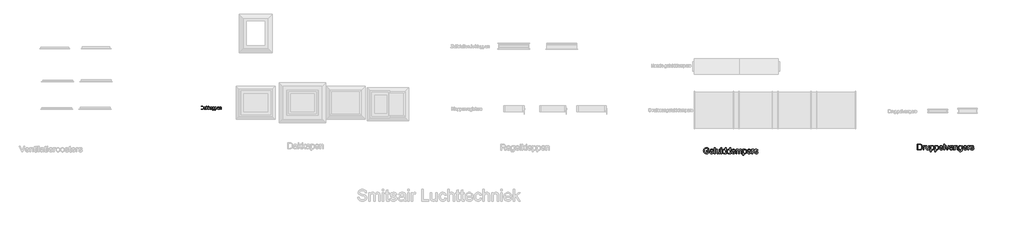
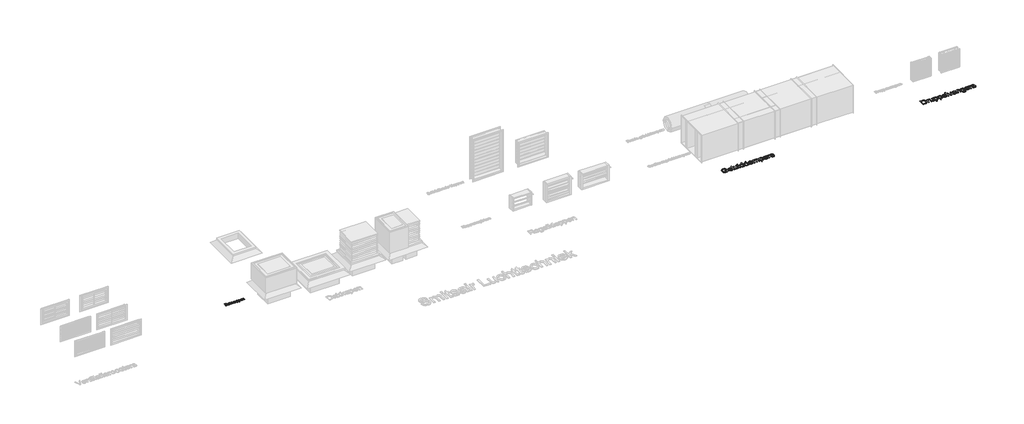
# One storey, part 6 of 10: 3 proxies.
"""IFC4 building model written with IfcOpenShell, lengths in millimetres."""

import ifcopenshell
import ifcopenshell.guid

model = None  # the IFC model being written
_history = None  # IfcOwnerHistory: only IFC2X3 demands one
_inside = {}  # id of a spatial element -> (the spatial element, [elements in it])
_under = {}  # id of a project, library or spatial element -> (it, [spatial elements below it])
_declared = {}  # id of a project -> (the project, [libraries it declares])
_typed = {}  # id of a type object -> (the type object, [elements of that type])
_made_of = {}  # id of a material, layer set ... -> (it, [elements and type objects made of it])


def new_model(schema):
    """Start an empty IFC model of exactly this schema.

    Asked for "IFC4X3", IfcOpenShell would pick the latest addendum, in which some entities
    have other attributes; the version numbers below select the first issue.
    IFC2X3 requires an IfcOwnerHistory on every rooted entity: one is made here for all.
    """
    global model, _history
    if schema == "IFC4X3":
        model = ifcopenshell.file(schema_version=(4, 3, 0, 0))
    else:
        model = ifcopenshell.file(schema=schema)
    _inside.clear()
    _under.clear()
    _declared.clear()
    _typed.clear()
    _made_of.clear()
    _history = None
    if model.schema == "IFC2X3":
        org = make("IfcOrganization", Name="unknown")
        user = make(
            "IfcPersonAndOrganization",
            ThePerson=make("IfcPerson", FamilyName="unknown"),
            TheOrganization=org,
        )
        app = make(
            "IfcApplication",
            ApplicationDeveloper=org,
            Version="unknown",
            ApplicationFullName="unknown",
            ApplicationIdentifier="unknown",
        )
        _history = make(
            "IfcOwnerHistory",
            OwningUser=user,
            OwningApplication=app,
            ChangeAction="ADDED",
            CreationDate=0,
        )
    return model


def make(cls, **values):
    """One entity of the class cls with the attributes given. An attribute that is None is left unset."""
    return model.create_entity(
        cls, **{name: value for name, value in values.items() if value is not None}
    )


def rooted(cls, **values):
    """An entity with a GlobalId (a new one), such as an element, a storey or a relation."""
    return make(cls, GlobalId=ifcopenshell.guid.new(), OwnerHistory=_history, **values)


def si_unit(unit_type, name, prefix=None):
    """IfcSIUnit, for example si_unit("LENGTHUNIT", "METRE", prefix="MILLI")."""
    return make("IfcSIUnit", UnitType=unit_type, Prefix=prefix, Name=name)


def assignment(units):
    """IfcUnitAssignment: the units of a project."""
    return None if units is None else make("IfcUnitAssignment", Units=units)


def point(xyz):
    """IfcCartesianPoint."""
    return None if xyz is None else make("IfcCartesianPoint", Coordinates=xyz)


def direction(xyz):
    """IfcDirection."""
    return None if xyz is None else make("IfcDirection", DirectionRatios=xyz)


def frame(location, z_axis=None, x_axis=None):
    """IfcAxis2Placement3D, a coordinate frame: its origin and axes. An axis left out is left unset."""
    return make(
        "IfcAxis2Placement3D",
        Location=point(location),
        Axis=direction(z_axis),
        RefDirection=direction(x_axis),
    )


def origin():
    """The frame at (0, 0, 0) with its axes left unset."""
    return frame((0.0, 0.0, 0.0))


def origin_with_axes():
    """The frame at (0, 0, 0) with the z axis (0, 0, 1) and the x axis (1, 0, 0) written out."""
    return frame((0.0, 0.0, 0.0), z_axis=(0.0, 0.0, 1.0), x_axis=(1.0, 0.0, 0.0))


def place(relative_to, where):
    """IfcLocalPlacement: puts the frame where relative to a parent placement (None: the world)."""
    return make(
        "IfcLocalPlacement", PlacementRelTo=relative_to, RelativePlacement=where
    )


def context(
    kind, dimensions, precision=None, world=None, true_north=None, identifier=None
):
    """IfcGeometricRepresentationContext, for example the 3D "Model" context."""
    return make(
        "IfcGeometricRepresentationContext",
        ContextIdentifier=identifier,
        ContextType=kind,
        CoordinateSpaceDimension=dimensions,
        Precision=precision,
        WorldCoordinateSystem=world,
        TrueNorth=true_north,
    )


def project(units=None, contexts=None):
    """IfcProject with its units and contexts."""
    return rooted(
        "IfcProject",
        Name="project",
        RepresentationContexts=contexts,
        UnitsInContext=assignment(units),
    )


def spatial(cls, under=None, at=None, **own):
    """A site, building, storey or space (cls), placed at a placement, below another one or the project."""
    s = rooted(cls, ObjectPlacement=at, **own)
    if under is not None:
        _under.setdefault(under.id(), (under, []))[1].append(s)
    return s


def polyline(points):
    """IfcPolyline through the points."""
    return make("IfcPolyline", Points=[point(p) for p in points])


def outline(outer, holes=None, kind="AREA"):
    """IfcArbitraryClosedProfileDef: a profile drawn as a closed curve; with holes, ...WithVoids."""
    if holes is None:
        return make("IfcArbitraryClosedProfileDef", ProfileType=kind, OuterCurve=outer)
    return make(
        "IfcArbitraryProfileDefWithVoids",
        ProfileType=kind,
        OuterCurve=outer,
        InnerCurves=holes,
    )


def extrude(swept, where, along, depth):
    """IfcExtrudedAreaSolid: the profile swept, set in the frame where, extruded along a direction by depth."""
    return make(
        "IfcExtrudedAreaSolid",
        SweptArea=swept,
        Position=where,
        ExtrudedDirection=direction(along),
        Depth=depth,
    )


def shape(context_of_items, identifier, shape_type, items):
    """IfcShapeRepresentation: the items that make up one representation, for example the "Body"."""
    return make(
        "IfcShapeRepresentation",
        ContextOfItems=context_of_items,
        RepresentationIdentifier=identifier,
        RepresentationType=shape_type,
        Items=items,
    )


def made_of(thing, what):
    """Note that an element or type object is made of a material, layer set ...; save() writes the relation."""
    if what is not None:
        _made_of.setdefault(what.id(), (what, []))[1].append(thing)
    return thing


def element(
    cls,
    number,
    at=None,
    inside=None,
    cuts=None,
    type_object=None,
    material=None,
    context=None,
    identifier="Body",
    shape_type=None,
    held_by="IfcProductDefinitionShape",
    body=None,
    shapes=None,
    **own,
):
    """One element of the class cls, such as IfcWall. Its Tag is "e" and its number.

    at: its placement. inside: the storey or other place that contains it. cuts: it is an
    opening in that element (IfcRelVoidsElement). A single representation is given by context,
    identifier, shape_type and body (its items); several are given by shapes. held_by: the class
    of the entity that holds the representations. save() writes the other relations.
    """
    e = rooted(cls, Tag="e%d" % number, ObjectPlacement=at, **own)
    if body is not None:
        shapes = [shape(context, identifier, shape_type, body)]
    if shapes is not None:
        e.Representation = make(held_by, Representations=shapes)
    if inside is not None:
        _inside.setdefault(inside.id(), (inside, []))[1].append(e)
    if cuts is not None:
        rooted(
            "IfcRelVoidsElement", RelatingBuildingElement=cuts, RelatedOpeningElement=e
        )
    if type_object is not None:
        _typed.setdefault(type_object.id(), (type_object, []))[1].append(e)
    return made_of(e, material)


def aggregate(whole, parts):
    """IfcRelAggregates: a whole, such as a stair, and the parts it consists of."""
    return rooted("IfcRelAggregates", RelatingObject=whole, RelatedObjects=parts)


def save(model, path):
    """Write the relations noted so far, then the file.

    IfcRelAggregates (storeys below a building ...), IfcRelContainedInSpatialStructure (elements
    in a storey), IfcRelDefinesByType, IfcRelAssociatesMaterial and IfcRelDeclares: one each for
    every whole, place, type object, material and project.
    """
    for whole, parts in _under.values():
        aggregate(whole, parts)
    for where, things in _inside.values():
        rooted(
            "IfcRelContainedInSpatialStructure",
            RelatedElements=things,
            RelatingStructure=where,
        )
    for kind, things in _typed.values():
        rooted("IfcRelDefinesByType", RelatedObjects=things, RelatingType=kind)
    for what, things in _made_of.values():
        rooted("IfcRelAssociatesMaterial", RelatedObjects=things, RelatingMaterial=what)
    for by, libraries in _declared.values():
        rooted("IfcRelDeclares", RelatingContext=by, RelatedDefinitions=libraries)
    model.write(path)


model = new_model("IFC4")

# Units and contexts
model_context = context("Model", 3, world=origin())
ifc_project = project(units=[si_unit("LENGTHUNIT", "METRE", prefix="MILLI")], contexts=[model_context])

# Site, building, storey
site = spatial("IfcSite", under=ifc_project)
building = spatial("IfcBuilding", under=site)
storey = spatial("IfcBuildingStorey", under=building, Name="Ventilatieroosters", Elevation=0.0)

# Proxies
placement = place(None, origin())
element("IfcBuildingElementProxy", 1, Name="100mm", ObjectType="100mm", at=placement, inside=storey, context=model_context, shape_type="SweptSolid", body=[
    extrude(outline(polyline([(2034.2111023, -15044.8350112), (2034.2111023, -14946.3734728), (2068.1774485, -14946.3734728), (2085.7495639, -14947.791742), (2100.2207177, -14954.8350112), (2111.8793716, -14971.6619343), (2115.7495639, -14995.0753958), (2113.1293716, -15014.9431843), (2106.3986023, -15029.2821266), (2097.4082177, -15038.2124151), (2085.6413908, -15043.1523189), (2069.8120639, -15044.8350112), (2034.2111023, -15044.8350112)]), holes=[polyline([(2046.5187947, -15032.5273189), (2068.2976408, -15032.5273189), (2084.138987, -15030.7484728), (2093.2736023, -15025.7244343), (2100.7615831, -15013.5008766), (2103.4418716, -14994.8830881), (2102.1287706, -14981.4696266), (2098.1894677, -14971.5657805), (2085.4130254, -14960.6523189), (2067.9611023, -14958.6811651), (2046.5187947, -14958.6811651), (2046.5187947, -15032.5273189)])]), origin_with_axes(), (0.0, 0.0, 1.0), 2.0),
    extrude(outline(polyline([(2177.2880254, -15035.604242), (2165.3529293, -15043.9455881), (2152.1678331, -15046.3734728), (2141.8823764, -15044.9131362), (2134.295237, -15040.5321266), (2129.6167514, -15033.8794824), (2128.0572562, -15025.604242), (2130.4130254, -15015.8686651), (2136.6029293, -15008.8013574), (2145.2207177, -15004.7628958), (2155.8697562, -15002.9119343), (2177.21591, -14998.6811651), (2177.2880254, -14995.9407805), (2173.8986023, -14986.854242), (2160.2928331, -14983.2965497), (2147.84091, -14985.6643381), (2141.90341, -14994.0657805), (2129.5957177, -14992.5273189), (2134.920237, -14980.5080881), (2145.6413908, -14973.4648189), (2161.8793716, -14970.9888574), (2176.795237, -14973.1763574), (2185.2207177, -14978.6691458), (2188.9947562, -14987.0225112), (2189.5957177, -14997.791742), (2189.5957177, -15013.104242), (2190.2207177, -15034.4864535), (2192.6726408, -15044.8350112), (2180.3649485, -15044.8350112), (2177.2880254, -15035.604242)]), holes=[polyline([(2177.2880254, -15010.9888574), (2157.4322562, -15014.7628958), (2146.8433139, -15016.7580881), (2142.0476408, -15020.0032805), (2140.3649485, -15024.7388574), (2144.0308139, -15031.3975112), (2154.7880254, -15034.0657805), (2167.2399485, -15031.1210689), (2175.2687947, -15023.9936651), (2177.21591, -15014.4744343), (2177.2880254, -15010.9888574)])]), origin_with_axes(), (0.0, 0.0, 1.0), 2.0),
    extrude(outline(polyline([(2206.5187947, -15044.8350112), (2206.5187947, -14946.3734728), (2218.826487, -14946.3734728), (2218.826487, -14999.2821266), (2246.4226408, -14972.5273189), (2263.4418716, -14972.5273189), (2235.5091793, -14999.6186651), (2264.9803331, -15044.8350112), (2250.6053331, -15044.8350112), (2226.6870639, -15008.1763574), (2218.826487, -15015.7965497), (2218.826487, -15044.8350112), (2206.5187947, -15044.8350112)])), origin_with_axes(), (0.0, 0.0, 1.0), 2.0),
    extrude(outline(polyline([(2275.7495639, -15044.8350112), (2275.7495639, -14946.3734728), (2288.0572562, -14946.3734728), (2288.0572562, -14999.2821266), (2315.65341, -14972.5273189), (2332.6726408, -14972.5273189), (2304.7399485, -14999.6186651), (2334.2111023, -15044.8350112), (2319.8361023, -15044.8350112), (2295.9178331, -15008.1763574), (2288.0572562, -15015.7965497), (2288.0572562, -15044.8350112), (2275.7495639, -15044.8350112)])), origin_with_axes(), (0.0, 0.0, 1.0), 2.0),
    extrude(outline(polyline([(2391.1341793, -15035.604242), (2379.1990831, -15043.9455881), (2366.013987, -15046.3734728), (2355.7285302, -15044.9131362), (2348.1413908, -15040.5321266), (2343.4629052, -15033.8794824), (2341.90341, -15025.604242), (2344.2591793, -15015.8686651), (2350.4490831, -15008.8013574), (2359.0668716, -15004.7628958), (2369.71591, -15002.9119343), (2391.0620639, -14998.6811651), (2391.1341793, -14995.9407805), (2387.7447562, -14986.854242), (2374.138987, -14983.2965497), (2361.6870639, -14985.6643381), (2355.7495639, -14994.0657805), (2343.4418716, -14992.5273189), (2348.7663908, -14980.5080881), (2359.4875447, -14973.4648189), (2375.7255254, -14970.9888574), (2390.6413908, -14973.1763574), (2399.0668716, -14978.6691458), (2402.84091, -14987.0225112), (2403.4418716, -14997.791742), (2403.4418716, -15013.104242), (2404.0668716, -15034.4864535), (2406.5187947, -15044.8350112), (2394.2111023, -15044.8350112), (2391.1341793, -15035.604242)]), holes=[polyline([(2391.1341793, -15010.9888574), (2371.27841, -15014.7628958), (2360.6894677, -15016.7580881), (2355.8937947, -15020.0032805), (2354.2111023, -15024.7388574), (2357.8769677, -15031.3975112), (2368.6341793, -15034.0657805), (2381.0861023, -15031.1210689), (2389.1149485, -15023.9936651), (2391.0620639, -15014.4744343), (2391.1341793, -15010.9888574)])]), origin_with_axes(), (0.0, 0.0, 1.0), 2.0),
    extrude(outline(polyline([(2420.3649485, -15072.5273189), (2420.3649485, -14972.5273189), (2432.6726408, -14972.5273189), (2432.6726408, -14984.5946266), (2441.1822562, -14974.3902997), (2452.6726408, -14970.9888574), (2468.2736023, -14975.7484728), (2478.46591, -14989.1619343), (2481.90341, -15008.1282805), (2478.0211985, -15028.0681843), (2466.74716, -15041.6499151), (2451.1822562, -15046.3734728), (2440.4731216, -15043.2124151), (2432.6726408, -15035.2196266), (2432.6726408, -15072.5273189), (2420.3649485, -15072.5273189)]), holes=[polyline([(2432.6726408, -15009.2580881), (2434.0037706, -15020.291742), (2437.99716, -15028.0080881), (2443.8895879, -15032.5513574), (2450.9178331, -15034.0657805), (2458.060261, -15032.4972708), (2464.1029293, -15027.791742), (2468.2225206, -15019.7929439), (2469.5957177, -15008.3446266), (2468.2555735, -14997.3710689), (2464.2351408, -14989.5465497), (2458.3517273, -14984.8590497), (2451.4226408, -14983.2965497), (2444.466511, -14984.9582083), (2438.357737, -14989.9431843), (2434.0939148, -14998.0952276), (2432.6726408, -15009.2580881)])]), origin_with_axes(), (0.0, 0.0, 1.0), 2.0),
    extrude(outline(polyline([(2495.7495639, -15072.5273189), (2495.7495639, -14972.5273189), (2508.0572562, -14972.5273189), (2508.0572562, -14984.5946266), (2516.5668716, -14974.3902997), (2528.0572562, -14970.9888574), (2543.6582177, -14975.7484728), (2553.8505254, -14989.1619343), (2557.2880254, -15008.1282805), (2553.4058139, -15028.0681843), (2542.1317754, -15041.6499151), (2526.5668716, -15046.3734728), (2515.857737, -15043.2124151), (2508.0572562, -15035.2196266), (2508.0572562, -15072.5273189), (2495.7495639, -15072.5273189)]), holes=[polyline([(2508.0572562, -15009.2580881), (2509.388386, -15020.291742), (2513.3817754, -15028.0080881), (2519.2742033, -15032.5513574), (2526.3024485, -15034.0657805), (2533.4448764, -15032.4972708), (2539.4875447, -15027.791742), (2543.607136, -15019.7929439), (2544.9803331, -15008.3446266), (2543.6401889, -14997.3710689), (2539.6197562, -14989.5465497), (2533.7363427, -14984.8590497), (2526.8072562, -14983.2965497), (2519.8511264, -14984.9582083), (2513.7423523, -14989.9431843), (2509.4785302, -14998.0952276), (2508.0572562, -15009.2580881)])]), origin_with_axes(), (0.0, 0.0, 1.0), 2.0),
    extrude(outline(polyline([(2621.7591793, -15023.2965497), (2633.826487, -15024.8350112), (2629.4785302, -15033.9275593), (2622.5404293, -15040.7244343), (2613.1684341, -15044.9612131), (2601.5187947, -15046.3734728), (2587.0776889, -15043.9365737), (2575.96591, -15036.6258766), (2568.8805735, -15024.916141), (2566.5187947, -15009.2821266), (2568.904612, -14993.1222708), (2576.0620639, -14981.0369343), (2587.0236023, -14973.5008766), (2600.8216793, -14970.9888574), (2614.1900687, -14973.494867), (2624.87216, -14981.0128958), (2631.8763668, -14993.0741939), (2634.2111023, -15009.2100112), (2634.138987, -15012.5273189), (2578.826487, -15012.5273189), (2580.9568956, -15021.7400593), (2585.9058139, -15028.5128958), (2601.7591793, -15034.0657805), (2613.826487, -15031.4936651), (2621.7591793, -15023.2965497)]), holes=[polyline([(2578.826487, -15000.2196266), (2621.90341, -15000.2196266), (2616.9755254, -14989.0657805), (2609.8000447, -14984.7388574), (2600.7736023, -14983.2965497), (2585.6173523, -14987.8999151), (2578.826487, -15000.2196266)])]), origin_with_axes(), (0.0, 0.0, 1.0), 2.0),
    extrude(outline(polyline([(2646.5187947, -15044.8350112), (2646.5187947, -14972.5273189), (2658.826487, -14972.5273189), (2658.826487, -14982.6234728), (2668.2375447, -14973.8975112), (2681.0861023, -14970.9888574), (2692.7086985, -14973.3326074), (2700.6413908, -14979.4864535), (2704.3312947, -14988.5369343), (2704.9803331, -15000.4359728), (2704.9803331, -15044.8350112), (2692.6726408, -15044.8350112), (2692.6726408, -15002.0946266), (2691.2543716, -14991.2052035), (2686.2423523, -14985.447992), (2677.7928331, -14983.2965497), (2664.4394677, -14988.1282805), (2660.2297322, -14995.1294824), (2658.826487, -15006.4696266), (2658.826487, -15044.8350112), (2646.5187947, -15044.8350112)])), origin_with_axes(), (0.0, 0.0, 1.0), 2.0),
])
element("IfcBuildingElementProxy", 2, Name="200mm", ObjectType="200mm", at=placement, inside=storey, context=model_context, shape_type="SweptSolid", body=[
    extrude(outline(polyline([(18962.7091169, -16458.3011226), (18962.7091169, -16433.6857379), (19042.7091169, -16433.6857379), (19042.7091169, -16507.2915072), (19023.2680111, -16520.8131418), (19003.2139246, -16530.512661), (18982.5949342, -16536.3540072), (18961.4591169, -16538.3011226), (18933.8449342, -16535.2061706), (18908.8870015, -16525.9213149), (18888.1538284, -16510.7710745), (18873.2139246, -16490.0799687), (18864.1814727, -16465.2602572), (18861.1706554, -16437.7241995), (18864.1694534, -16409.9898245), (18873.1658477, -16384.1905456), (18887.7872419, -16362.5499206), (18907.66104, -16347.2915072), (18931.8677708, -16338.2410264), (18959.4879631, -16335.2241995), (18979.7644054, -16336.9729976), (18997.9975784, -16342.2193918), (19013.3521458, -16350.5847764), (19024.9927708, -16361.6905456), (19033.6045496, -16376.0715552), (19039.8725784, -16394.262661), (19017.1802708, -16400.6568918), (19005.9543092, -16377.8924687), (18986.7716169, -16364.7674687), (18959.1033477, -16359.8395841), (18927.5889246, -16365.1520841), (18906.1466169, -16379.0943918), (18893.4783477, -16398.0607379), (18887.7091169, -16416.6424687), (18885.78604, -16436.7145841), (18888.0997419, -16460.2542476), (18895.0408477, -16479.6232379), (18906.3990208, -16494.6833341), (18921.9639246, -16505.2963149), (18940.1790688, -16511.5883822), (18959.4879631, -16513.6857379), (18976.5372419, -16512.1052091), (18993.1658477, -16507.3636226), (19018.0937323, -16493.8780456), (19018.0937323, -16458.3011226), (18962.7091169, -16458.3011226)])), origin_with_axes(), (0.0, 0.0, 1.0), 5.0),
    extrude(outline(polyline([(19180.8821938, -16492.1472764), (19205.0168092, -16495.2241995), (19196.3208958, -16513.4092956), (19182.4446938, -16527.0030456), (19163.7007034, -16535.4766033), (19140.4014246, -16538.3011226), (19111.5192131, -16533.4273245), (19089.2956554, -16518.8059302), (19075.1249823, -16495.3864591), (19070.4014246, -16464.1184302), (19075.1730592, -16431.7987187), (19089.4879631, -16407.6280456), (19111.41104, -16392.5559302), (19139.0071938, -16387.5318918), (19165.7439727, -16392.543911), (19187.1081554, -16407.5799687), (19201.1165688, -16431.7025649), (19205.78604, -16463.9741995), (19205.6418092, -16470.6088149), (19095.0168092, -16470.6088149), (19099.2776265, -16489.0342956), (19109.1754631, -16502.5799687), (19123.4603188, -16510.9092956), (19140.8821938, -16513.6857379), (19165.0168092, -16508.5415072), (19173.9831554, -16501.8708341), (19180.8821938, -16492.1472764)]), holes=[polyline([(19095.0168092, -16445.9934302), (19181.1706554, -16445.9934302), (19177.8413284, -16432.9886226), (19171.3148861, -16423.6857379), (19156.9639246, -16415.0318918), (19138.91104, -16412.1472764), (19122.3184919, -16414.4489591), (19108.59854, -16421.3540072), (19099.0612804, -16432.1172283), (19095.0168092, -16445.9934302)])]), origin_with_axes(), (0.0, 0.0, 1.0), 5.0),
    extrude(outline(polyline([(19230.4014246, -16535.2241995), (19230.4014246, -16338.3011226), (19255.0168092, -16338.3011226), (19255.0168092, -16535.2241995), (19230.4014246, -16535.2241995)])), origin_with_axes(), (0.0, 0.0, 1.0), 5.0),
    extrude(outline(polyline([(19384.2475784, -16535.2241995), (19384.2475784, -16510.3684302), (19375.3413284, -16522.5889831), (19364.9687323, -16531.3179495), (19353.12979, -16536.5553293), (19339.8245015, -16538.3011226), (19316.6754631, -16533.3972764), (19300.7139246, -16521.0895841), (19293.3821938, -16502.9645841), (19291.9398861, -16480.0799687), (19291.9398861, -16390.6088149), (19316.5552708, -16390.6088149), (19316.5552708, -16468.4934302), (19318.0456554, -16493.5895841), (19321.6333958, -16501.9609783), (19327.7812323, -16508.325161), (19346.1225784, -16513.6857379), (19366.6754631, -16508.2049687), (19374.8665688, -16501.7326129), (19380.2571938, -16493.2770841), (19384.2475784, -16465.8491995), (19384.2475784, -16390.6088149), (19408.8629631, -16390.6088149), (19408.8629631, -16535.2241995), (19384.2475784, -16535.2241995)])), origin_with_axes(), (0.0, 0.0, 1.0), 5.0),
    extrude(outline(polyline([(19442.7091169, -16535.2241995), (19442.7091169, -16390.6088149), (19467.3245015, -16390.6088149), (19467.3245015, -16535.2241995), (19442.7091169, -16535.2241995)])), origin_with_axes(), (0.0, 0.0, 1.0), 5.0),
    extrude(outline(polyline([(19442.7091169, -16362.9165072), (19442.7091169, -16338.3011226), (19467.3245015, -16338.3011226), (19467.3245015, -16362.9165072), (19442.7091169, -16362.9165072)])), origin_with_axes(), (0.0, 0.0, 1.0), 5.0),
    extrude(outline(polyline([(19593.4783477, -16535.2241995), (19593.4783477, -16512.0030456), (19586.113564, -16523.5084543), (19577.19229, -16531.7266033), (19566.7145256, -16536.6574927), (19554.6802708, -16538.3011226), (19538.7668092, -16535.9213149), (19524.1995015, -16528.7818918), (19511.8677708, -16517.3816514), (19502.66104, -16502.2193918), (19496.9278669, -16483.9080937), (19495.0168092, -16463.0607379), (19496.7776265, -16442.4717956), (19502.0600784, -16423.8780456), (19510.8581554, -16408.3371802), (19523.1658477, -16396.9068918), (19538.051665, -16389.8756418), (19554.5841169, -16387.5318918), (19566.6273861, -16389.2085745), (19577.2764246, -16394.2386226), (19593.4783477, -16411.6665072), (19593.4783477, -16338.3011226), (19618.0937323, -16338.3011226), (19618.0937323, -16535.2241995), (19593.4783477, -16535.2241995)]), holes=[polyline([(19519.6321938, -16462.9645841), (19522.4086361, -16485.2302091), (19530.7379631, -16501.0655456), (19542.8413284, -16510.5306899), (19556.9398861, -16513.6857379), (19571.0324342, -16510.6749206), (19582.8293092, -16501.6424687), (19590.8160881, -16486.4201129), (19593.4783477, -16464.8395841), (19590.7680111, -16441.2458341), (19582.6370015, -16424.887661), (19570.5396458, -16415.3323726), (19555.9302708, -16412.1472764), (19541.6874823, -16415.2061706), (19530.0168092, -16424.3828533), (19522.2283477, -16440.1460745), (19519.6321938, -16462.9645841)])]), origin_with_axes(), (0.0, 0.0, 1.0), 5.0),
    extrude(outline(polyline([(19744.2475784, -16535.2241995), (19744.2475784, -16512.0030456), (19736.8827948, -16523.5084543), (19727.9615208, -16531.7266033), (19717.4837563, -16536.6574927), (19705.4495015, -16538.3011226), (19689.53604, -16535.9213149), (19674.9687323, -16528.7818918), (19662.6370015, -16517.3816514), (19653.4302708, -16502.2193918), (19647.6970977, -16483.9080937), (19645.78604, -16463.0607379), (19647.5468573, -16442.4717956), (19652.8293092, -16423.8780456), (19661.6273861, -16408.3371802), (19673.9350784, -16396.9068918), (19688.8208958, -16389.8756418), (19705.3533477, -16387.5318918), (19717.3966169, -16389.2085745), (19728.0456554, -16394.2386226), (19744.2475784, -16411.6665072), (19744.2475784, -16338.3011226), (19768.8629631, -16338.3011226), (19768.8629631, -16535.2241995), (19744.2475784, -16535.2241995)]), holes=[polyline([(19670.4014246, -16462.9645841), (19673.1778669, -16485.2302091), (19681.5071938, -16501.0655456), (19693.6105592, -16510.5306899), (19707.7091169, -16513.6857379), (19721.801665, -16510.6749206), (19733.59854, -16501.6424687), (19741.5853188, -16486.4201129), (19744.2475784, -16464.8395841), (19741.5372419, -16441.2458341), (19733.4062323, -16424.887661), (19721.3088765, -16415.3323726), (19706.6995015, -16412.1472764), (19692.4567131, -16415.2061706), (19680.78604, -16424.3828533), (19672.9975784, -16440.1460745), (19670.4014246, -16462.9645841)])]), origin_with_axes(), (0.0, 0.0, 1.0), 5.0),
    extrude(outline(polyline([(19907.03604, -16492.1472764), (19931.1706554, -16495.2241995), (19922.4747419, -16513.4092956), (19908.59854, -16527.0030456), (19889.8545496, -16535.4766033), (19866.5552708, -16538.3011226), (19837.6730592, -16533.4273245), (19815.4495015, -16518.8059302), (19801.2788284, -16495.3864591), (19796.5552708, -16464.1184302), (19801.3269054, -16431.7987187), (19815.6418092, -16407.6280456), (19837.5648861, -16392.5559302), (19865.16104, -16387.5318918), (19891.8978188, -16392.543911), (19913.2620015, -16407.5799687), (19927.270415, -16431.7025649), (19931.9398861, -16463.9741995), (19931.7956554, -16470.6088149), (19821.1706554, -16470.6088149), (19825.4314727, -16489.0342956), (19835.3293092, -16502.5799687), (19849.614165, -16510.9092956), (19867.03604, -16513.6857379), (19891.1706554, -16508.5415072), (19900.1370015, -16501.8708341), (19907.03604, -16492.1472764)]), holes=[polyline([(19821.1706554, -16445.9934302), (19907.3245015, -16445.9934302), (19903.9951746, -16432.9886226), (19897.4687323, -16423.6857379), (19883.1177708, -16415.0318918), (19865.0648861, -16412.1472764), (19848.4723381, -16414.4489591), (19834.7523861, -16421.3540072), (19825.2151265, -16432.1172283), (19821.1706554, -16445.9934302)])]), origin_with_axes(), (0.0, 0.0, 1.0), 5.0),
    extrude(outline(polyline([(19956.5552708, -16535.2241995), (19956.5552708, -16390.6088149), (19981.1706554, -16390.6088149), (19981.1706554, -16414.4068918), (19998.0937323, -16394.9116995), (20009.4038284, -16389.3768437), (20022.1802708, -16387.5318918), (20035.8701746, -16389.4129014), (20046.8437323, -16395.0559302), (20055.0408477, -16404.0883822), (20060.4014246, -16416.137661), (20069.3737804, -16403.622637), (20079.6081554, -16394.6833341), (20091.1045496, -16389.3197524), (20103.8629631, -16387.5318918), (20122.3665688, -16390.5066514), (20136.0504631, -16399.4309302), (20144.5059919, -16414.5451129), (20147.3245015, -16436.0895841), (20147.3245015, -16535.2241995), (20122.7091169, -16535.2241995), (20122.7091169, -16446.6665072), (20120.4254631, -16426.1136226), (20112.1562323, -16415.9934302), (20098.0937323, -16412.1472764), (20084.7583958, -16414.6112187), (20073.8870015, -16422.0030456), (20066.6574342, -16434.8275649), (20064.2475784, -16453.5895841), (20064.2475784, -16535.2241995), (20039.6321938, -16535.2241995), (20039.6321938, -16443.9261226), (20038.207915, -16430.0078533), (20033.9350784, -16420.0799687), (20026.4170496, -16414.1304495), (20015.2571938, -16412.1472764), (19997.03604, -16417.4357379), (19989.8245015, -16423.950161), (19984.9206554, -16432.9165072), (19981.1706554, -16462.2915072), (19981.1706554, -16535.2241995), (19956.5552708, -16535.2241995)])), origin_with_axes(), (0.0, 0.0, 1.0), 5.0),
    extrude(outline(polyline([(20184.2475784, -16590.6088149), (20184.2475784, -16390.6088149), (20208.8629631, -16390.6088149), (20208.8629631, -16414.7434302), (20225.8821938, -16394.3347764), (20236.3629631, -16389.2326129), (20248.8629631, -16387.5318918), (20265.5095977, -16389.9116995), (20280.0648861, -16397.0511226), (20291.9158477, -16408.5174687), (20300.4495015, -16423.8780456), (20305.6057515, -16442.0150649), (20307.3245015, -16461.8107379), (20305.3833958, -16482.8624206), (20299.5600784, -16501.6905456), (20290.0408477, -16517.3395841), (20277.0120015, -16528.8540072), (20261.8377227, -16535.9393437), (20245.8821938, -16538.3011226), (20234.5660881, -16536.7205937), (20224.4639246, -16531.9790072), (20208.8629631, -16515.9934302), (20208.8629631, -16590.6088149), (20184.2475784, -16590.6088149)]), holes=[polyline([(20208.8629631, -16464.0703533), (20211.5252227, -16486.137661), (20219.5120015, -16501.5703533), (20231.2968573, -16510.6568918), (20245.3533477, -16513.6857379), (20259.6382034, -16510.5487187), (20271.72354, -16501.137661), (20279.9627227, -16485.1400649), (20282.7091169, -16462.2434302), (20280.0288284, -16440.2963149), (20271.9879631, -16424.6472764), (20260.2211361, -16415.2722764), (20246.3629631, -16412.1472764), (20232.4507034, -16415.4705937), (20220.2331554, -16425.4405456), (20211.7055111, -16441.7446322), (20208.8629631, -16464.0703533)])]), origin_with_axes(), (0.0, 0.0, 1.0), 5.0),
    extrude(outline(polyline([(20436.2668092, -16492.1472764), (20460.4014246, -16495.2241995), (20451.7055111, -16513.4092956), (20437.8293092, -16527.0030456), (20419.0853188, -16535.4766033), (20395.78604, -16538.3011226), (20366.9038284, -16533.4273245), (20344.6802708, -16518.8059302), (20330.5095977, -16495.3864591), (20325.78604, -16464.1184302), (20330.5576746, -16431.7987187), (20344.8725784, -16407.6280456), (20366.7956554, -16392.5559302), (20394.3918092, -16387.5318918), (20421.1285881, -16392.543911), (20442.4927708, -16407.5799687), (20456.5011842, -16431.7025649), (20461.1706554, -16463.9741995), (20461.0264246, -16470.6088149), (20350.4014246, -16470.6088149), (20354.6622419, -16489.0342956), (20364.5600784, -16502.5799687), (20378.8449342, -16510.9092956), (20396.2668092, -16513.6857379), (20420.4014246, -16508.5415072), (20429.3677708, -16501.8708341), (20436.2668092, -16492.1472764)]), holes=[polyline([(20350.4014246, -16445.9934302), (20436.5552708, -16445.9934302), (20433.2259438, -16432.9886226), (20426.6995015, -16423.6857379), (20412.34854, -16415.0318918), (20394.2956554, -16412.1472764), (20377.7031073, -16414.4489591), (20363.9831554, -16421.3540072), (20354.4458958, -16432.1172283), (20350.4014246, -16445.9934302)])]), origin_with_axes(), (0.0, 0.0, 1.0), 5.0),
    extrude(outline(polyline([(20485.78604, -16535.2241995), (20485.78604, -16390.6088149), (20507.3245015, -16390.6088149), (20507.3245015, -16412.0030456), (20522.6129631, -16392.2915072), (20537.9975784, -16387.5318918), (20550.2571938, -16389.4309302), (20562.7091169, -16395.1280456), (20554.4879631, -16417.1953533), (20537.1802708, -16412.1472764), (20523.2620015, -16417.0030456), (20514.3918092, -16430.4645841), (20510.4014246, -16459.2145841), (20510.4014246, -16535.2241995), (20485.78604, -16535.2241995)])), origin_with_axes(), (0.0, 0.0, 1.0), 5.0),
    extrude(outline(polyline([(20568.8629631, -16492.1472764), (20593.4783477, -16489.0703533), (20597.3605592, -16499.5991995), (20604.8725784, -16507.3395841), (20616.0624823, -16512.0991995), (20630.9783477, -16513.6857379), (20645.7139246, -16512.231411), (20656.0745015, -16507.8684302), (20662.2043092, -16501.5463149), (20664.2475784, -16494.2145841), (20662.19229, -16487.9405456), (20656.0264246, -16483.1568918), (20630.6898861, -16476.137661), (20593.6225784, -16464.0943918), (20577.4446938, -16450.0318918), (20571.9398861, -16430.1761226), (20576.3629631, -16411.8347764), (20588.4302708, -16397.8203533), (20604.0793092, -16390.5366995), (20625.2571938, -16387.5318918), (20655.2091169, -16392.3636226), (20666.41104, -16398.0487187), (20674.2475784, -16405.4405456), (20682.7091169, -16427.5318918), (20658.0937323, -16430.6088149), (20654.9867611, -16422.8624206), (20648.8389246, -16417.0270841), (20627.1802708, -16412.1472764), (20613.0456554, -16413.3131418), (20603.6225784, -16416.8107379), (20598.3220977, -16421.8588149), (20596.5552708, -16427.6761226), (20599.4879631, -16434.8395841), (20608.6706554, -16440.2722764), (20629.8725784, -16445.512661), (20666.0023861, -16457.0991995), (20682.7812323, -16470.2241995), (20687.3425304, -16479.8756418), (20688.8629631, -16491.6184302), (20687.0781073, -16503.7578533), (20681.72354, -16515.1761226), (20673.0035881, -16524.9778052), (20661.1225784, -16532.2674687), (20646.7716169, -16536.7927091), (20630.6418092, -16538.3011226), (20605.8220977, -16535.3924687), (20587.7091169, -16526.6665072), (20575.6177708, -16512.2193918), (20568.8629631, -16492.1472764)])), origin_with_axes(), (0.0, 0.0, 1.0), 5.0),
])
element("IfcBuildingElementProxy", 3, Name="200mm", ObjectType="200mm", at=placement, inside=storey, context=model_context, shape_type="SweptSolid", body=[
    extrude(outline(polyline([(26027.0164962, -16408.9796474), (26027.0164962, -16212.0565705), (26094.9491885, -16212.0565705), (26130.0934193, -16214.8931089), (26145.7905347, -16220.3618589), (26159.035727, -16228.9796474), (26172.6535154, -16243.9796474), (26182.3530347, -16262.6334935), (26188.1583231, -16284.5806089), (26190.0934193, -16309.4604166), (26184.8530347, -16349.1959935), (26171.3914962, -16377.8738781), (26153.410727, -16395.7344551), (26129.8770731, -16405.6142628), (26098.2184193, -16408.9796474), (26027.0164962, -16408.9796474)]), holes=[polyline([(26051.6318808, -16384.3642628), (26095.1895731, -16384.3642628), (26126.8722654, -16380.8065705), (26145.1414962, -16370.7584935), (26153.6931789, -16360.1034455), (26160.1174577, -16346.3113781), (26165.4780347, -16309.0758012), (26162.8518327, -16282.2488781), (26154.973227, -16262.4411858), (26143.332602, -16248.8354166), (26129.4203424, -16240.6142628), (26094.5164962, -16236.6719551), (26051.6318808, -16236.6719551), (26051.6318808, -16384.3642628)])]), origin_with_axes(), (0.0, 0.0, 1.0), 5.0),
    extrude(outline(polyline([(26220.8626501, -16408.9796474), (26220.8626501, -16264.3642628), (26242.4011116, -16264.3642628), (26242.4011116, -16285.7584935), (26257.6895731, -16266.0469551), (26273.0741885, -16261.2873397), (26285.3338039, -16263.1863781), (26297.785727, -16268.8834935), (26289.5645731, -16290.9508012), (26272.2568808, -16285.9027243), (26258.3386116, -16290.7584935), (26249.4684193, -16304.220032), (26245.4780347, -16332.970032), (26245.4780347, -16408.9796474), (26220.8626501, -16408.9796474)])), origin_with_axes(), (0.0, 0.0, 1.0), 5.0),
    extrude(outline(polyline([(26405.4780347, -16408.9796474), (26405.4780347, -16384.1238781), (26396.5717847, -16396.344431), (26386.1991885, -16405.0733974), (26374.3602462, -16410.3107772), (26361.0549577, -16412.0565705), (26337.9059193, -16407.1527243), (26321.9443808, -16394.845032), (26314.6126501, -16376.720032), (26313.1703424, -16353.8354166), (26313.1703424, -16264.3642628), (26337.785727, -16264.3642628), (26337.785727, -16342.2488781), (26339.2761116, -16367.345032), (26342.863852, -16375.7164262), (26349.0116885, -16382.0806089), (26367.3530347, -16387.4411858), (26387.9059193, -16381.9604166), (26396.0970251, -16375.4880608), (26401.4876501, -16367.032532), (26405.4780347, -16339.6046474), (26405.4780347, -16264.3642628), (26430.0934193, -16264.3642628), (26430.0934193, -16408.9796474), (26405.4780347, -16408.9796474)])), origin_with_axes(), (0.0, 0.0, 1.0), 5.0),
    extrude(outline(polyline([(26463.9395731, -16464.3642628), (26463.9395731, -16264.3642628), (26488.5549577, -16264.3642628), (26488.5549577, -16288.4988781), (26505.5741885, -16268.0902243), (26516.0549577, -16262.9880608), (26528.5549577, -16261.2873397), (26545.2015924, -16263.6671474), (26559.7568808, -16270.8065705), (26571.6078424, -16282.2729166), (26580.1414962, -16297.6334935), (26585.2977462, -16315.7705128), (26587.0164962, -16335.5661858), (26585.0753904, -16356.6178685), (26579.2520731, -16375.4459935), (26569.7328424, -16391.095032), (26556.7039962, -16402.6094551), (26541.5297174, -16409.6947916), (26525.5741885, -16412.0565705), (26514.2580827, -16410.4760416), (26504.1559193, -16405.7344551), (26488.5549577, -16389.7488781), (26488.5549577, -16464.3642628), (26463.9395731, -16464.3642628)]), holes=[polyline([(26488.5549577, -16337.8258012), (26491.2172174, -16359.8931089), (26499.2039962, -16375.3258012), (26510.988852, -16384.4123397), (26525.0453424, -16387.4411858), (26539.3301981, -16384.3041666), (26551.4155347, -16374.8931089), (26559.6547174, -16358.8955128), (26562.4011116, -16335.9988781), (26559.7208231, -16314.0517628), (26551.6799577, -16298.4027243), (26539.9131308, -16289.0277243), (26526.0549577, -16285.9027243), (26512.1426981, -16289.2260416), (26499.9251501, -16299.1959935), (26491.3975058, -16315.5000801), (26488.5549577, -16337.8258012)])]), origin_with_axes(), (0.0, 0.0, 1.0), 5.0),
    extrude(outline(polyline([(26614.7088039, -16464.3642628), (26614.7088039, -16264.3642628), (26639.3241885, -16264.3642628), (26639.3241885, -16288.4988781), (26656.3434193, -16268.0902243), (26666.8241885, -16262.9880608), (26679.3241885, -16261.2873397), (26695.9708231, -16263.6671474), (26710.5261116, -16270.8065705), (26722.3770731, -16282.2729166), (26730.910727, -16297.6334935), (26736.066977, -16315.7705128), (26737.785727, -16335.5661858), (26735.8446212, -16356.6178685), (26730.0213039, -16375.4459935), (26720.5020731, -16391.095032), (26707.473227, -16402.6094551), (26692.2989481, -16409.6947916), (26676.3434193, -16412.0565705), (26665.0273135, -16410.4760416), (26654.9251501, -16405.7344551), (26639.3241885, -16389.7488781), (26639.3241885, -16464.3642628), (26614.7088039, -16464.3642628)]), holes=[polyline([(26639.3241885, -16337.8258012), (26641.9864481, -16359.8931089), (26649.973227, -16375.3258012), (26661.7580827, -16384.4123397), (26675.8145731, -16387.4411858), (26690.0994289, -16384.3041666), (26702.1847654, -16374.8931089), (26710.4239481, -16358.8955128), (26713.1703424, -16335.9988781), (26710.4900539, -16314.0517628), (26702.4491885, -16298.4027243), (26690.6823616, -16289.0277243), (26676.8241885, -16285.9027243), (26662.9119289, -16289.2260416), (26650.6943808, -16299.1959935), (26642.1667366, -16315.5000801), (26639.3241885, -16337.8258012)])]), origin_with_axes(), (0.0, 0.0, 1.0), 5.0),
    extrude(outline(polyline([(26866.7280347, -16365.9027243), (26890.8626501, -16368.9796474), (26882.1667366, -16387.1647435), (26868.2905347, -16400.7584935), (26849.5465443, -16409.2320512), (26826.2472654, -16412.0565705), (26797.3650539, -16407.1827724), (26775.1414962, -16392.5613781), (26760.9708231, -16369.141907), (26756.2472654, -16337.8738781), (26761.0189001, -16305.5541666), (26775.3338039, -16281.3834935), (26797.2568808, -16266.3113781), (26824.8530347, -16261.2873397), (26851.5898135, -16266.2993589), (26872.9539962, -16281.3354166), (26886.9624097, -16305.4580128), (26891.6318808, -16337.7296474), (26891.4876501, -16344.3642628), (26780.8626501, -16344.3642628), (26785.1234674, -16362.7897435), (26795.0213039, -16376.3354166), (26809.3061597, -16384.6647435), (26826.7280347, -16387.4411858), (26850.8626501, -16382.2969551), (26859.8289962, -16375.626282), (26866.7280347, -16365.9027243)]), holes=[polyline([(26780.8626501, -16319.7488781), (26867.0164962, -16319.7488781), (26863.6871693, -16306.7440705), (26857.160727, -16297.4411858), (26842.8097654, -16288.7873397), (26824.7568808, -16285.9027243), (26808.1643327, -16288.204407), (26794.4443808, -16295.1094551), (26784.9071212, -16305.8726762), (26780.8626501, -16319.7488781)])]), origin_with_axes(), (0.0, 0.0, 1.0), 5.0),
    extrude(outline(polyline([(26916.2472654, -16408.9796474), (26916.2472654, -16212.0565705), (26940.8626501, -16212.0565705), (26940.8626501, -16408.9796474), (26916.2472654, -16408.9796474)])), origin_with_axes(), (0.0, 0.0, 1.0), 5.0),
    extrude(outline(polyline([(27013.2664962, -16408.9796474), (26962.4011116, -16264.3642628), (26988.4588039, -16264.3642628), (27019.2761116, -16350.9988781), (27028.5549577, -16380.1334935), (27037.6414962, -16352.6334935), (27068.6511116, -16264.3642628), (27094.7088039, -16264.3642628), (27044.4684193, -16408.9796474), (27013.2664962, -16408.9796474)])), origin_with_axes(), (0.0, 0.0, 1.0), 5.0),
    extrude(outline(polyline([(27208.5549577, -16390.5181089), (27184.6847654, -16407.2008012), (27158.3145731, -16412.0565705), (27137.7436597, -16409.1358974), (27122.5693808, -16400.3738781), (27113.2124097, -16387.0685897), (27110.0934193, -16370.5181089), (27114.8049577, -16351.0469551), (27127.1847654, -16336.9123397), (27144.4203424, -16328.8354166), (27165.7184193, -16325.1334935), (27208.410727, -16316.6719551), (27208.5549577, -16311.1911858), (27206.8602462, -16300.2056089), (27201.7761116, -16293.0181089), (27190.4059193, -16287.6815705), (27174.5645731, -16285.9027243), (27149.660727, -16290.6383012), (27142.6775539, -16297.2068108), (27137.785727, -16307.4411858), (27113.1703424, -16304.3642628), (27123.8193808, -16280.3258012), (27132.8939001, -16272.2368589), (27145.2616885, -16266.2392628), (27177.7376501, -16261.2873397), (27207.5693808, -16265.6623397), (27224.4203424, -16276.6479166), (27231.9684193, -16293.3546474), (27233.1703424, -16314.8931089), (27233.1703424, -16345.5181089), (27234.4203424, -16388.282532), (27239.3241885, -16408.9796474), (27214.7088039, -16408.9796474), (27208.5549577, -16390.5181089)]), holes=[polyline([(27208.5549577, -16341.2873397), (27168.8434193, -16348.8354166), (27147.6655347, -16352.8258012), (27138.0741885, -16359.3161858), (27134.7088039, -16368.7873397), (27136.5417366, -16376.1070512), (27142.0405347, -16382.1046474), (27151.0850058, -16386.1070512), (27163.5549577, -16387.4411858), (27176.7761116, -16385.9688301), (27188.4588039, -16381.5517628), (27204.5164962, -16367.2969551), (27208.410727, -16348.2584935), (27208.5549577, -16341.2873397)])]), origin_with_axes(), (0.0, 0.0, 1.0), 5.0),
    extrude(outline(polyline([(27267.0164962, -16408.9796474), (27267.0164962, -16264.3642628), (27291.6318808, -16264.3642628), (27291.6318808, -16284.5565705), (27300.1835635, -16274.376282), (27310.4539962, -16267.1046474), (27322.4431789, -16262.7416666), (27336.1511116, -16261.2873397), (27359.3963039, -16265.9748397), (27375.2616885, -16278.282532), (27382.6414962, -16296.3834935), (27383.9395731, -16320.1815705), (27383.9395731, -16408.9796474), (27359.3241885, -16408.9796474), (27359.3241885, -16323.4988781), (27356.4876501, -16301.720032), (27346.4636116, -16290.2056089), (27329.5645731, -16285.9027243), (27315.1475058, -16288.3185897), (27302.8578424, -16295.5661858), (27294.4383712, -16309.5685897), (27291.6318808, -16332.2488781), (27291.6318808, -16408.9796474), (27267.0164962, -16408.9796474)])), origin_with_axes(), (0.0, 0.0, 1.0), 5.0),
    extrude(outline(polyline([(27411.6318808, -16421.2873397), (27436.2472654, -16424.3642628), (27438.9636116, -16432.0565705), (27444.2280347, -16437.345032), (27454.5765924, -16441.4556089), (27468.1222654, -16442.8258012), (27482.5693808, -16441.2753205), (27493.3145731, -16436.6238781), (27500.7664962, -16429.1719551), (27505.3338039, -16419.220032), (27507.0164962, -16390.5181089), (27489.6847654, -16404.3642628), (27468.5549577, -16408.9796474), (27443.176352, -16403.6070512), (27424.2520731, -16387.4892628), (27412.4792366, -16363.8594551), (27408.5549577, -16335.9508012), (27410.3157751, -16316.0770031), (27415.598227, -16297.8017628), (27424.2160154, -16282.3149839), (27435.9828424, -16270.8065705), (27450.4960635, -16263.6671474), (27467.3530347, -16261.2873397), (27489.3121693, -16266.6719551), (27507.0164962, -16282.8258012), (27507.0164962, -16264.3642628), (27531.6318808, -16264.3642628), (27531.6318808, -16389.220032), (27529.9491885, -16418.048157), (27524.9011116, -16437.032532), (27516.2051981, -16449.6226762), (27503.5789962, -16459.2681089), (27487.2989481, -16465.3979166), (27467.6414962, -16467.4411858), (27444.738852, -16464.5625801), (27426.7039962, -16455.9267628), (27415.1354866, -16441.5096955), (27411.6318808, -16421.2873397)]), holes=[polyline([(27433.1703424, -16334.2681089), (27435.7965443, -16356.8462339), (27443.6751501, -16372.3690705), (27455.520102, -16381.3654647), (27470.0453424, -16384.3642628), (27484.4624097, -16381.3834935), (27496.3674577, -16372.4411858), (27504.3542366, -16357.1166666), (27507.0164962, -16334.9892628), (27504.2761116, -16313.6491185), (27496.0549577, -16298.282532), (27483.9756308, -16288.9976762), (27469.660727, -16285.9027243), (27455.6042366, -16288.9495993), (27443.8193808, -16298.0902243), (27435.832602, -16313.2284455), (27433.1703424, -16334.2681089)])]), origin_with_axes(), (0.0, 0.0, 1.0), 5.0),
    extrude(outline(polyline([(27669.8049577, -16365.9027243), (27693.9395731, -16368.9796474), (27685.2436597, -16387.1647435), (27671.3674577, -16400.7584935), (27652.6234674, -16409.2320512), (27629.3241885, -16412.0565705), (27600.441977, -16407.1827724), (27578.2184193, -16392.5613781), (27564.0477462, -16369.141907), (27559.3241885, -16337.8738781), (27564.0958231, -16305.5541666), (27578.410727, -16281.3834935), (27600.3338039, -16266.3113781), (27627.9299577, -16261.2873397), (27654.6667366, -16266.2993589), (27676.0309193, -16281.3354166), (27690.0393327, -16305.4580128), (27694.7088039, -16337.7296474), (27694.5645731, -16344.3642628), (27583.9395731, -16344.3642628), (27588.2003904, -16362.7897435), (27598.098227, -16376.3354166), (27612.3830827, -16384.6647435), (27629.8049577, -16387.4411858), (27653.9395731, -16382.2969551), (27662.9059193, -16375.626282), (27669.8049577, -16365.9027243)]), holes=[polyline([(27583.9395731, -16319.7488781), (27670.0934193, -16319.7488781), (27666.7640924, -16306.7440705), (27660.2376501, -16297.4411858), (27645.8866885, -16288.7873397), (27627.8338039, -16285.9027243), (27611.2412558, -16288.204407), (27597.5213039, -16295.1094551), (27587.9840443, -16305.8726762), (27583.9395731, -16319.7488781)])]), origin_with_axes(), (0.0, 0.0, 1.0), 5.0),
    extrude(outline(polyline([(27719.3241885, -16408.9796474), (27719.3241885, -16264.3642628), (27740.8626501, -16264.3642628), (27740.8626501, -16285.7584935), (27756.1511116, -16266.0469551), (27771.535727, -16261.2873397), (27783.7953424, -16263.1863781), (27796.2472654, -16268.8834935), (27788.0261116, -16290.9508012), (27770.7184193, -16285.9027243), (27756.8001501, -16290.7584935), (27747.9299577, -16304.220032), (27743.9395731, -16332.970032), (27743.9395731, -16408.9796474), (27719.3241885, -16408.9796474)])), origin_with_axes(), (0.0, 0.0, 1.0), 5.0),
    extrude(outline(polyline([(27802.4011116, -16365.9027243), (27827.0164962, -16362.8258012), (27830.8987077, -16373.3546474), (27838.410727, -16381.095032), (27849.6006308, -16385.8546474), (27864.5164962, -16387.4411858), (27879.2520731, -16385.9868589), (27889.6126501, -16381.6238781), (27895.7424577, -16375.3017628), (27897.785727, -16367.970032), (27895.7304385, -16361.6959935), (27889.5645731, -16356.9123397), (27864.2280347, -16349.8931089), (27827.160727, -16337.8498397), (27810.9828424, -16323.7873397), (27805.4780347, -16303.9315705), (27809.9011116, -16285.5902243), (27821.9684193, -16271.5758012), (27837.6174577, -16264.2921474), (27858.7953424, -16261.2873397), (27888.7472654, -16266.1190705), (27899.9491885, -16271.8041666), (27907.785727, -16279.1959935), (27916.2472654, -16301.2873397), (27891.6318808, -16304.3642628), (27888.5249097, -16296.6178685), (27882.3770731, -16290.782532), (27860.7184193, -16285.9027243), (27846.5838039, -16287.0685897), (27837.160727, -16290.5661858), (27831.8602462, -16295.6142628), (27830.0934193, -16301.4315705), (27833.0261116, -16308.595032), (27842.2088039, -16314.0277243), (27863.410727, -16319.2681089), (27899.5405347, -16330.8546474), (27916.3193808, -16343.9796474), (27920.8806789, -16353.6310897), (27922.4011116, -16365.3738781), (27920.6162558, -16377.5133012), (27915.2616885, -16388.9315705), (27906.5417366, -16398.7332531), (27894.660727, -16406.0229166), (27880.3097654, -16410.548157), (27864.1799577, -16412.0565705), (27839.3602462, -16409.1479166), (27821.2472654, -16400.4219551), (27809.1559193, -16385.9748397), (27802.4011116, -16365.9027243)])), origin_with_axes(), (0.0, 0.0, 1.0), 5.0),
])

save(model, "model.ifc")
